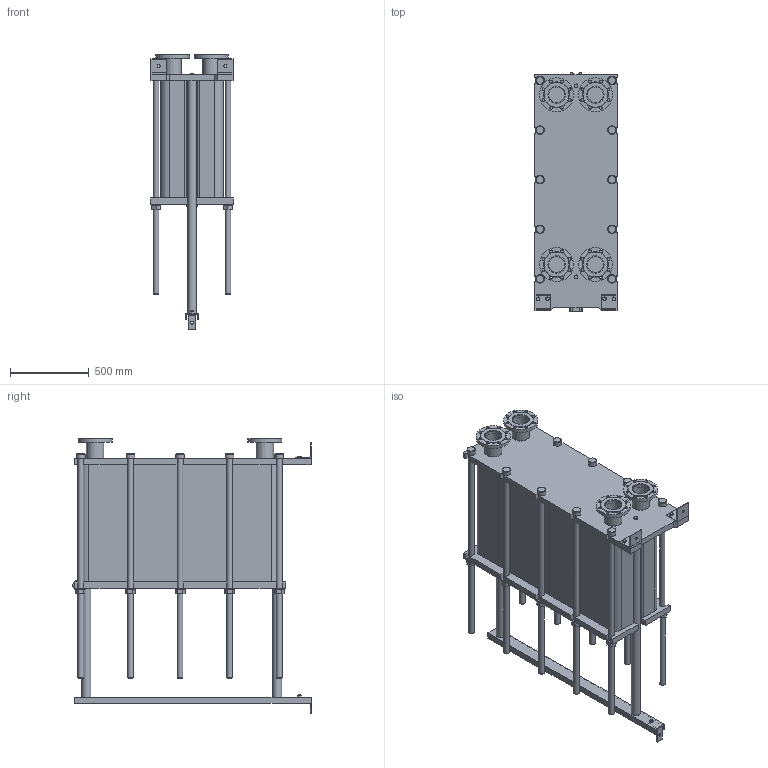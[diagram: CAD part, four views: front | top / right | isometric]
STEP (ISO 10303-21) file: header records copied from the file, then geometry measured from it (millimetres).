
FILE_DESCRIPTION(/* description */ (''),/* implementation_level */ '2;1');
FILE_NAME(/* name */ 'C:\Users\zhuro\Desktop\ENCO\TO\ЭН-04\ЭН-0,5-04-215-1.stp',/* time_stamp */ '2022-06-06T11:04:47+03:00',/* author */ ('zhuro'),/* organization */ (''),/* preprocessor_version */ 'ST-DEVELOPER v18.1',/* originating_system */ 'Autodesk Inventor 2022',/* authorisation */ '');
FILE_SCHEMA (('AUTOMOTIVE_DESIGN { 1 0 10303 214 3 1 1 }'));
Length unit declared in the file: millimetre
Products named in the file (1): ЭН-0,5-04-215-1
Bounding box: 520 x 1510 x 1747.5 mm (x, y, z)
Volume: 448090545.6 mm3; surface area: 10884122.8 mm2
Topology: 45 solids, 45 shells, 668 faces, 1611 edges, 1048 vertices
Faces by surface type: plane 457, cylinder 166, cone 39, torus 6
Full cylindrical faces by diameter (mm): 8 x4, 10 x2, 16 x8, 18 x35, 36 x25, 40 x2, 42 x1, 45 x4, 54 x10, 57 x2, 60 x10, 68 x2, 100 x4, 110 x8, 215 x4
Entity records: 23607 total; most frequent: CARTESIAN_POINT 7348, DIRECTION 3371, ORIENTED_EDGE 3142, EDGE_CURVE 1571, AXIS2_PLACEMENT_3D 1199, VERTEX_POINT 1044, LINE 973, VECTOR 973
